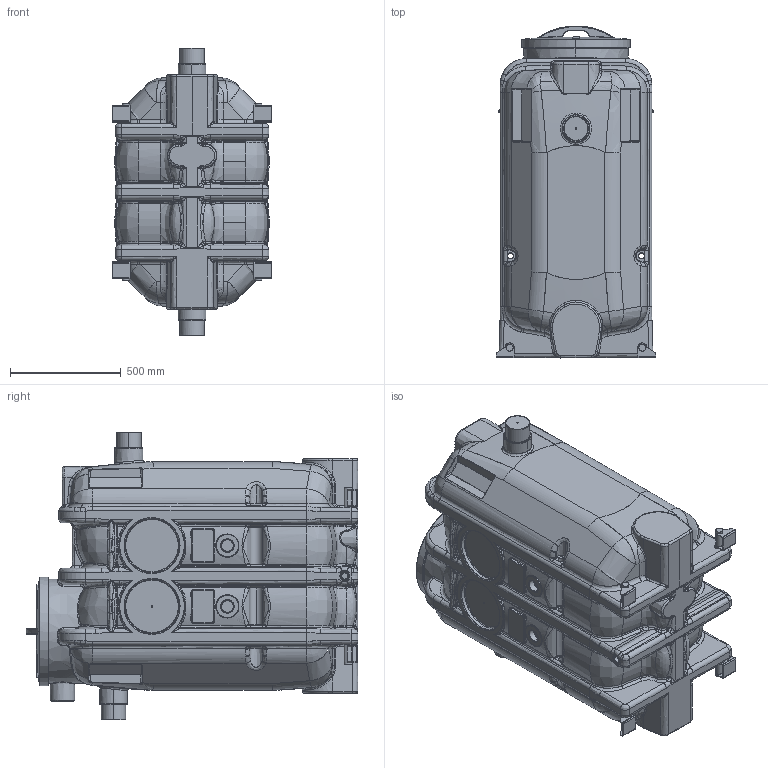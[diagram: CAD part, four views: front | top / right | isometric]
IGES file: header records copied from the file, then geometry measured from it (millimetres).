
Start section: SolidWorks IGES file using analytic representation for surfaces
Global section: file name: G:\Konst\01 Users\MKUMARA\ACO PROJECTS\FINAL\NS2\STEP MODEL\NS2_O-BASIC -GREASE SEPARTOR.IGS; native system: SolidWorks 2010; preprocessor: SolidWorks 2010; author: mkumara; date: 101110.084631; units: millimetre
Bounding box: 720 x 1499.73 x 1300 mm (x, y, z)
Surface area: 6261853.1 mm2 (no closed solid volume)
Topology: 0 solids, 0 shells, 2098 faces, 24990 edges, 24968 vertices
Faces by surface type: bspline 1466, revolution 632
